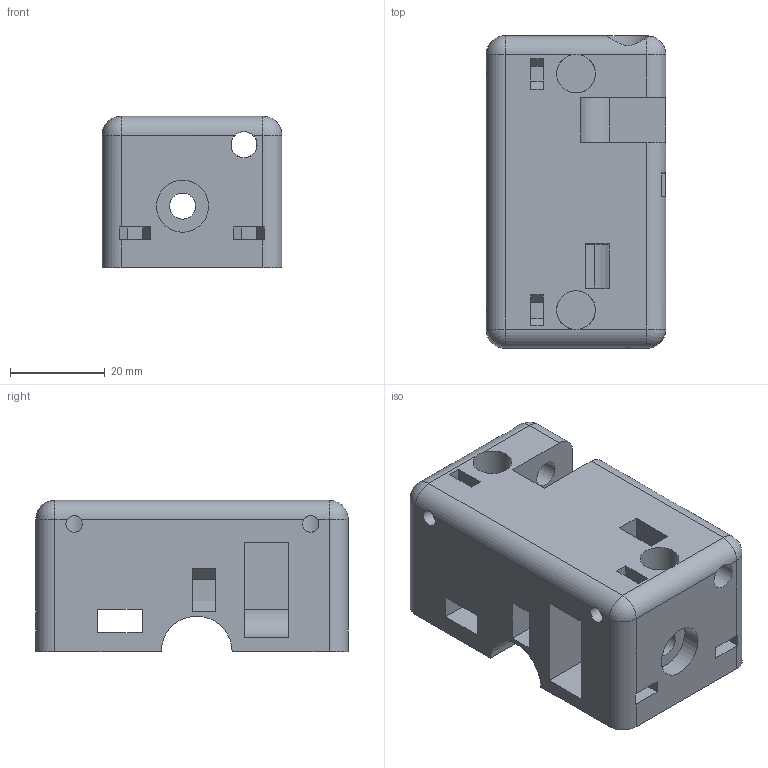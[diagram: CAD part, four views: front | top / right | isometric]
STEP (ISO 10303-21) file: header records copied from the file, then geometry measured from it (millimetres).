
FILE_DESCRIPTION(/* description */ (''),/* implementation_level */ '2;1');
FILE_NAME(/* name */ 'Gantry Primary Left x1 v5.step',/* time_stamp */ '2023-03-23T06:39:05-06:00',/* author */ (''),/* organization */ (''),/* preprocessor_version */ 'ST-DEVELOPER v19.2',/* originating_system */ 'Autodesk Translation Framework v11.17.0.187',/* authorisation */ '');
FILE_SCHEMA (('AUTOMOTIVE_DESIGN { 1 0 10303 214 3 1 1 }'));
Length unit declared in the file: millimetre
Products named in the file (2): Gantry Primary Left x1; L Gantry 1
Assembly tree (1 placements, depth 2):
  Gantry Primary Left x1
    L Gantry 1
Bounding box: 38 x 66 x 32 mm (x, y, z)
Volume: 58113 mm3; surface area: 19282.6 mm2
Topology: 1 solids, 5 shells, 166 faces, 456 edges, 301 vertices
Faces by surface type: plane 104, cylinder 35, bspline 23, sphere 4
Full cylindrical faces by diameter (mm): 3.5 x12, 5.5 x6, 8.2 x2, 11 x2
Entity records: 5697 total; most frequent: CARTESIAN_POINT 1474, ORIENTED_EDGE 912, DIRECTION 766, EDGE_CURVE 456, LINE 310, VECTOR 310, VERTEX_POINT 301, AXIS2_PLACEMENT_3D 228
